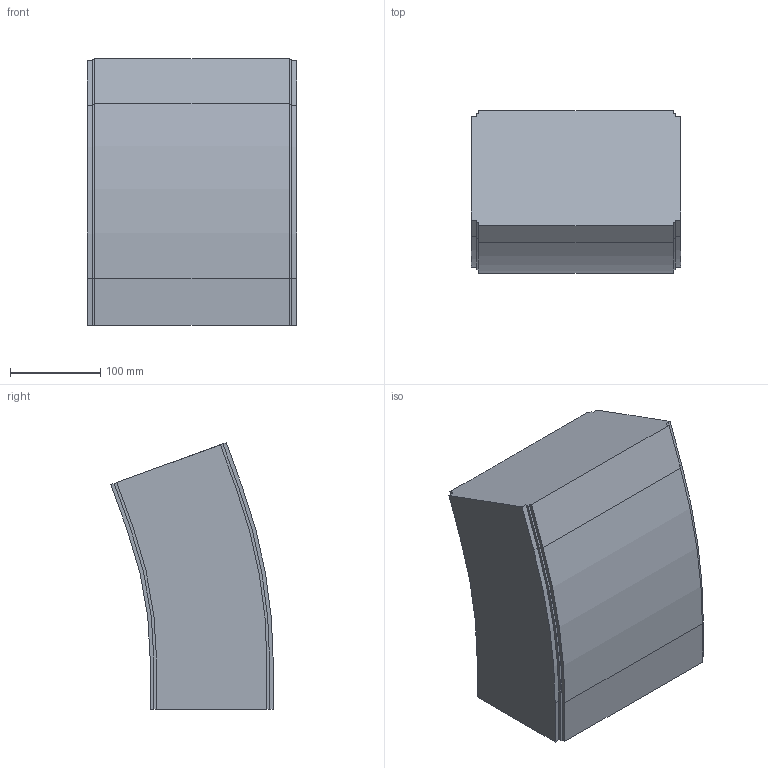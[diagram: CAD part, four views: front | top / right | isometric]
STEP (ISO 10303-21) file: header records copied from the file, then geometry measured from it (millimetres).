
FILE_DESCRIPTION (( 'STEP AP214' ), '1' );
FILE_NAME ('FS-MTC2-150-INOX verticaalbocht.230 20°.STEP', '2017-02-08T12:41:55', ( '' ), ( '' ), 'SwSTEP 2.0', 'SolidWorks 2016', '' );
FILE_SCHEMA (( 'AUTOMOTIVE_DESIGN' ));
Length unit declared in the file: millimetre
Products named in the file (1): FS-MTC2-150-INOX verticaalbocht.230 20°
Bounding box: 232.5 x 180.49 x 296.19 mm (x, y, z)
Volume: 8814078.5 mm3; surface area: 269358.2 mm2
Topology: 1 solids, 1 shells, 42 faces, 120 edges, 80 vertices
Faces by surface type: plane 32, cylinder 10
Entity records: 1398 total; most frequent: CARTESIAN_POINT 243, ORIENTED_EDGE 240, DIRECTION 226, EDGE_CURVE 120, VECTOR 100, LINE 100, VERTEX_POINT 80, AXIS2_PLACEMENT_3D 63
